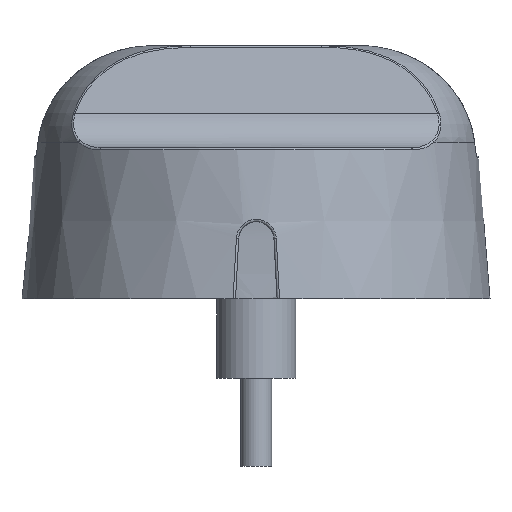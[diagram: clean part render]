
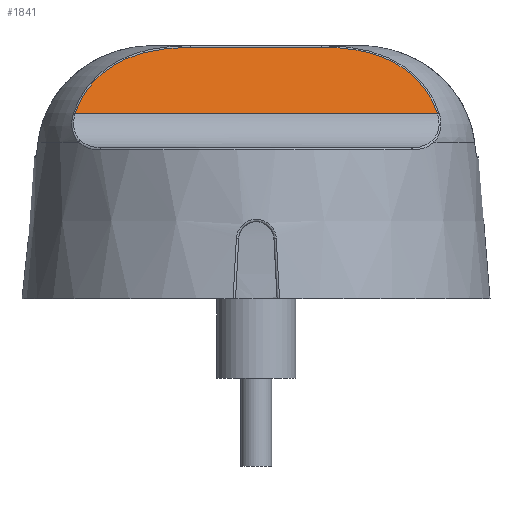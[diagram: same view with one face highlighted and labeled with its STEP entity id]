
A CAD part, front view. The second image highlights one B-rep face of the part: STEP entity #1841.
In plain terms, the highlighted planar face has unit normal (0, -0.974, 0.225).
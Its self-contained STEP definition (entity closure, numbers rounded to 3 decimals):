
#33=PLANE('',#1954);
#148=LINE('',#4158,#174);
#151=LINE('',#4187,#177);
#174=VECTOR('',#2134,1000.);
#177=VECTOR('',#2149,1000.);
#360=ORIENTED_EDGE('',*,*,#684,.T.);
#361=ORIENTED_EDGE('',*,*,#683,.T.);
#362=ORIENTED_EDGE('',*,*,#692,.F.);
#363=ORIENTED_EDGE('',*,*,#693,.T.);
#683=EDGE_CURVE('',#850,#848,#963,.T.);
#684=EDGE_CURVE('',#852,#850,#148,.T.);
#692=EDGE_CURVE('',#856,#848,#151,.T.);
#693=EDGE_CURVE('',#856,#852,#966,.T.);
#848=VERTEX_POINT('',#4083);
#850=VERTEX_POINT('',#4124);
#852=VERTEX_POINT('',#4159);
#856=VERTEX_POINT('',#4186);
#963=B_SPLINE_CURVE_WITH_KNOTS('',3,(#4148,#4149,#4150,#4151,#4152,#4153,
#4154,#4155,#4156),.UNSPECIFIED.,.F.,.F.,(4,1,1,1,1,1,4),(0.,
0.008,0.016,0.02,0.024,
0.028,0.033),.UNSPECIFIED.);
#966=B_SPLINE_CURVE_WITH_KNOTS('',3,(#4189,#4190,#4191,#4192,#4193,#4194,
#4195,#4196,#4197,#4198,#4199),.UNSPECIFIED.,.F.,.F.,(4,1,1,1,1,1,1,1,4),
(0.,0.004,0.008,0.01,0.012,
0.017,0.021,0.025,0.033),
 .UNSPECIFIED.);
#1030=EDGE_LOOP('',(#360,#361,#362,#363));
#1123=FACE_BOUND('',#1030,.T.);
#1841=ADVANCED_FACE('',(#1123),#33,.F.);
#1954=AXIS2_PLACEMENT_3D('',#4188,#2150,#2151);
#2134=DIRECTION('',(-1.,0.,0.));
#2149=DIRECTION('',(-1.,0.,0.));
#2150=DIRECTION('',(0.,0.974,-0.225));
#2151=DIRECTION('',(0.,0.225,0.974));
#4083=CARTESIAN_POINT('',(-41.122,-25.567,49.05));
#4124=CARTESIAN_POINT('',(-14.885,-22.089,64.112));
#4148=CARTESIAN_POINT('',(-14.885,-22.089,64.112));
#4149=CARTESIAN_POINT('',(-17.624,-22.089,64.112));
#4150=CARTESIAN_POINT('',(-23.046,-22.16,63.805));
#4151=CARTESIAN_POINT('',(-29.655,-22.628,61.778));
#4152=CARTESIAN_POINT('',(-34.316,-23.3,58.87));
#4153=CARTESIAN_POINT('',(-37.289,-23.935,56.118));
#4154=CARTESIAN_POINT('',(-39.666,-24.704,52.787));
#4155=CARTESIAN_POINT('',(-40.722,-25.269,50.341));
#4156=CARTESIAN_POINT('',(-41.122,-25.567,49.05));
#4158=CARTESIAN_POINT('',(261.6,-22.089,64.112));
#4159=CARTESIAN_POINT('',(14.885,-22.089,64.112));
#4186=CARTESIAN_POINT('',(41.122,-25.567,49.05));
#4187=CARTESIAN_POINT('',(42.158,-25.567,49.05));
#4188=CARTESIAN_POINT('',(261.6,-22.,64.5));
#4189=CARTESIAN_POINT('',(41.122,-25.567,49.05));
#4190=CARTESIAN_POINT('',(40.722,-25.268,50.343));
#4191=CARTESIAN_POINT('',(39.645,-24.695,52.828));
#4192=CARTESIAN_POINT('',(37.666,-24.058,55.586));
#4193=CARTESIAN_POINT('',(35.79,-23.615,57.504));
#4194=CARTESIAN_POINT('',(33.691,-23.208,59.265));
#4195=CARTESIAN_POINT('',(30.807,-22.795,61.055));
#4196=CARTESIAN_POINT('',(26.968,-22.437,62.607));
#4197=CARTESIAN_POINT('',(21.687,-22.144,63.876));
#4198=CARTESIAN_POINT('',(17.622,-22.089,64.112));
#4199=CARTESIAN_POINT('',(14.885,-22.089,64.112));
